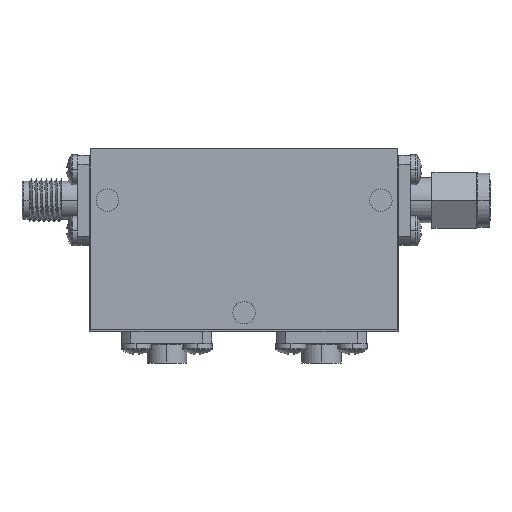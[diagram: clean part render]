
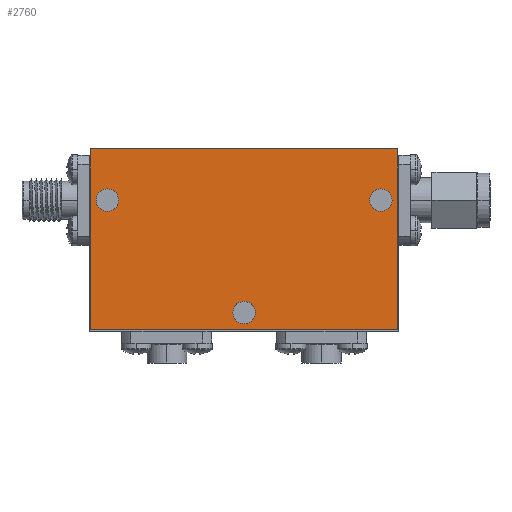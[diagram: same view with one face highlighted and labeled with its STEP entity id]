
A CAD part, top view. The second image highlights one B-rep face of the part: STEP entity #2760.
In plain terms, the highlighted planar face has unit normal (0, 0, 1) as drawn and (0, 0, -1) by its records, which use the part's own axes.
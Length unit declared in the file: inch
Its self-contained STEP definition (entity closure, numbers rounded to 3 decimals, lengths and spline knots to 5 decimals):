
#19 = CARTESIAN_POINT ( 'NONE',  ( 0.0625, -0.4375, 0. ) ) ;
#238 = DIRECTION ( 'NONE',  ( 1., 0., 0. ) ) ;
#244 = CARTESIAN_POINT ( 'NONE',  ( -0.8225, 0.1875, 0. ) ) ;
#370 = LINE ( 'NONE', #1879, #5900 ) ;
#421 = ORIENTED_EDGE ( 'NONE', *, *, #6311, .T. ) ;
#493 = ORIENTED_EDGE ( 'NONE', *, *, #4612, .T. ) ;
#519 = CARTESIAN_POINT ( 'NONE',  ( 0., 0., 0. ) ) ;
#566 = DIRECTION ( 'NONE',  ( 1., 0., 0. ) ) ;
#576 = CARTESIAN_POINT ( 'NONE',  ( -0.855, 0.4725, 0. ) ) ;
#891 = CIRCLE ( 'NONE', #6182, 0.0625 ) ;
#892 = ORIENTED_EDGE ( 'NONE', *, *, #4502, .F. ) ;
#942 = CARTESIAN_POINT ( 'NONE',  ( 0.855, 0.4725, 0. ) ) ;
#1016 = CARTESIAN_POINT ( 'NONE',  ( 0.855, 0.4725, 0. ) ) ;
#1105 = CARTESIAN_POINT ( 'NONE',  ( 0.855, -0.5325, 0. ) ) ;
#1126 = DIRECTION ( 'NONE',  ( 0., 0., 1. ) ) ;
#1138 = CARTESIAN_POINT ( 'NONE',  ( -0.0625, -0.4375, 0. ) ) ;
#1159 = EDGE_CURVE ( 'NONE', #6868, #5688, #4649, .T. ) ;
#1193 = CARTESIAN_POINT ( 'NONE',  ( 0., -0.4375, 0. ) ) ;
#1264 = AXIS2_PLACEMENT_3D ( 'NONE', #519, #1615, #3263 ) ;
#1271 = VECTOR ( 'NONE', #5945, 39.37008 ) ;
#1361 = ORIENTED_EDGE ( 'NONE', *, *, #1159, .F. ) ;
#1440 = CARTESIAN_POINT ( 'NONE',  ( -0.76, 0.1875, 0. ) ) ;
#1479 = EDGE_CURVE ( 'NONE', #5688, #6305, #370, .T. ) ;
#1556 = ORIENTED_EDGE ( 'NONE', *, *, #1479, .F. ) ;
#1615 = DIRECTION ( 'NONE',  ( 0., 0., 1. ) ) ;
#1662 = EDGE_CURVE ( 'NONE', #6869, #3475, #891, .T. ) ;
#1723 = AXIS2_PLACEMENT_3D ( 'NONE', #5803, #4201, #4688 ) ;
#1871 = VERTEX_POINT ( 'NONE', #244 ) ;
#1879 = CARTESIAN_POINT ( 'NONE',  ( -0.855, 0.4725, 0. ) ) ;
#2204 = FACE_BOUND ( 'NONE', #2457, .T. ) ;
#2293 = CIRCLE ( 'NONE', #6502, 0.0625 ) ;
#2344 = ORIENTED_EDGE ( 'NONE', *, *, #5689, .T. ) ;
#2417 = EDGE_CURVE ( 'NONE', #2971, #4194, #2293, .T. ) ;
#2431 = CIRCLE ( 'NONE', #3539, 0.0625 ) ;
#2435 = CARTESIAN_POINT ( 'NONE',  ( -0.6975, 0.1875, 0. ) ) ;
#2457 = EDGE_LOOP ( 'NONE', ( #5961, #5153 ) ) ;
#2494 = CIRCLE ( 'NONE', #3186, 0.0625 ) ;
#2649 = PLANE ( 'NONE',  #1264 ) ;
#2714 = CARTESIAN_POINT ( 'NONE',  ( -0.855, -0.5325, 0. ) ) ;
#2760 = ADVANCED_FACE ( 'NONE', ( #2204, #4634, #3201, #4984 ), #2649, .F. ) ;
#2771 = LINE ( 'NONE', #576, #5693 ) ;
#2829 = CARTESIAN_POINT ( 'NONE',  ( 0.8225, 0.1875, 0. ) ) ;
#2848 = DIRECTION ( 'NONE',  ( 0., 0., 1. ) ) ;
#2956 = DIRECTION ( 'NONE',  ( 0., 0., 1. ) ) ;
#2971 = VERTEX_POINT ( 'NONE', #2829 ) ;
#3076 = VERTEX_POINT ( 'NONE', #6236 ) ;
#3186 = AXIS2_PLACEMENT_3D ( 'NONE', #1440, #3640, #4695 ) ;
#3201 = FACE_BOUND ( 'NONE', #6417, .T. ) ;
#3225 = VECTOR ( 'NONE', #5299, 39.37008 ) ;
#3227 = EDGE_LOOP ( 'NONE', ( #6826, #493 ) ) ;
#3262 = CARTESIAN_POINT ( 'NONE',  ( 0., -0.4375, 0. ) ) ;
#3263 = DIRECTION ( 'NONE',  ( 1., 0., 0. ) ) ;
#3421 = EDGE_CURVE ( 'NONE', #3076, #6868, #5371, .T. ) ;
#3475 = VERTEX_POINT ( 'NONE', #1138 ) ;
#3503 = DIRECTION ( 'NONE',  ( -1., 0., 0. ) ) ;
#3539 = AXIS2_PLACEMENT_3D ( 'NONE', #1193, #1126, #4961 ) ;
#3640 = DIRECTION ( 'NONE',  ( 0., 0., 1. ) ) ;
#3686 = DIRECTION ( 'NONE',  ( 0., -1., 0. ) ) ;
#4194 = VERTEX_POINT ( 'NONE', #4665 ) ;
#4201 = DIRECTION ( 'NONE',  ( 0., 0., 1. ) ) ;
#4502 = EDGE_CURVE ( 'NONE', #6305, #3076, #2771, .T. ) ;
#4589 = CARTESIAN_POINT ( 'NONE',  ( -0.76, 0.1875, 0. ) ) ;
#4612 = EDGE_CURVE ( 'NONE', #3475, #6869, #2431, .T. ) ;
#4634 = FACE_BOUND ( 'NONE', #3227, .T. ) ;
#4649 = LINE ( 'NONE', #1016, #3225 ) ;
#4665 = CARTESIAN_POINT ( 'NONE',  ( 0.6975, 0.1875, 0. ) ) ;
#4688 = DIRECTION ( 'NONE',  ( 1., 0., 0. ) ) ;
#4695 = DIRECTION ( 'NONE',  ( 1., 0., 0. ) ) ;
#4961 = DIRECTION ( 'NONE',  ( 1., 0., 0. ) ) ;
#4984 = FACE_OUTER_BOUND ( 'NONE', #5128, .T. ) ;
#5048 = EDGE_CURVE ( 'NONE', #4194, #2971, #5367, .T. ) ;
#5128 = EDGE_LOOP ( 'NONE', ( #1361, #6861, #892, #1556 ) ) ;
#5140 = DIRECTION ( 'NONE',  ( 1., 0., 0. ) ) ;
#5153 = ORIENTED_EDGE ( 'NONE', *, *, #5048, .T. ) ;
#5189 = AXIS2_PLACEMENT_3D ( 'NONE', #4589, #2956, #5140 ) ;
#5299 = DIRECTION ( 'NONE',  ( 0., 1., 0. ) ) ;
#5367 = CIRCLE ( 'NONE', #1723, 0.0625 ) ;
#5371 = LINE ( 'NONE', #2714, #1271 ) ;
#5536 = CARTESIAN_POINT ( 'NONE',  ( -0.855, 0.4725, 0. ) ) ;
#5620 = VERTEX_POINT ( 'NONE', #2435 ) ;
#5688 = VERTEX_POINT ( 'NONE', #942 ) ;
#5689 = EDGE_CURVE ( 'NONE', #5620, #1871, #2494, .T. ) ;
#5693 = VECTOR ( 'NONE', #3686, 39.37008 ) ;
#5803 = CARTESIAN_POINT ( 'NONE',  ( 0.76, 0.1875, 0. ) ) ;
#5900 = VECTOR ( 'NONE', #3503, 39.37008 ) ;
#5945 = DIRECTION ( 'NONE',  ( 1., 0., 0. ) ) ;
#5954 = DIRECTION ( 'NONE',  ( 0., 0., 1. ) ) ;
#5961 = ORIENTED_EDGE ( 'NONE', *, *, #2417, .T. ) ;
#6048 = CARTESIAN_POINT ( 'NONE',  ( 0.76, 0.1875, 0. ) ) ;
#6182 = AXIS2_PLACEMENT_3D ( 'NONE', #3262, #5954, #566 ) ;
#6210 = CIRCLE ( 'NONE', #5189, 0.0625 ) ;
#6236 = CARTESIAN_POINT ( 'NONE',  ( -0.855, -0.5325, 0. ) ) ;
#6305 = VERTEX_POINT ( 'NONE', #5536 ) ;
#6311 = EDGE_CURVE ( 'NONE', #1871, #5620, #6210, .T. ) ;
#6417 = EDGE_LOOP ( 'NONE', ( #2344, #421 ) ) ;
#6502 = AXIS2_PLACEMENT_3D ( 'NONE', #6048, #2848, #238 ) ;
#6826 = ORIENTED_EDGE ( 'NONE', *, *, #1662, .T. ) ;
#6861 = ORIENTED_EDGE ( 'NONE', *, *, #3421, .F. ) ;
#6868 = VERTEX_POINT ( 'NONE', #1105 ) ;
#6869 = VERTEX_POINT ( 'NONE', #19 ) ;
